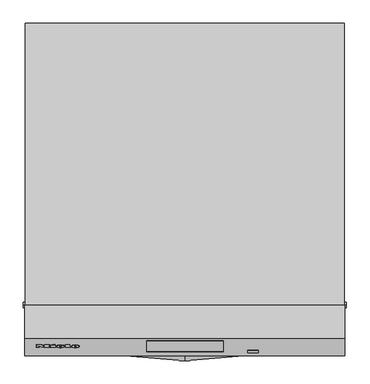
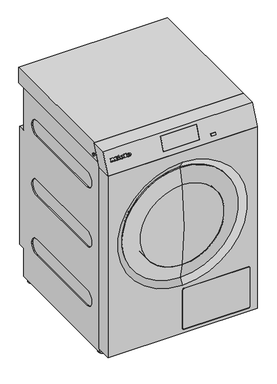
"""IFC4 building model written with IfcOpenShell, lengths in millimetres: proxy geometry, 11966870_SOM_PDR910EL_SST : 52910012_SOM_11966870_PDR910EL_SST."""

from ifc_helpers import new_model, si_unit, point, frame, frame_2d, origin, origin_with_axes, place, context, project, spatial, polyline, circle_curve, ellipse_curve, trimmed, segment, composite_curve, outline, extrude, faceted_brep, source, transform, mapped, element, save
from ifc_brep_helpers import plane_surface, cylinder_surface, revolved_surface, extruded_surface, advanced_brep


def specialty_equipment_f5509ea8(model_context):
    return source(origin(), model_context, "Body", "SolidModel", [
        advanced_brep(
        [(-238.2722, -700.6126019, 975.6957235), (-238.2722, -700.0401393, 977.1419447), (-227.9696, -700.0401393, 977.1419447), (-245.8952, -700.0401393, 977.1419447), (-241.6602, -701.9559051, 972.3021154), (-228.2314, -700.6126019, 975.6957235), (-232.8822, -700.6126019, 975.6957235), (-236.5474, -701.2474119, 974.0919931), (-238.2722, -699.3146422, 978.9747795), (-238.2722, -698.6968361, 980.5355529), (-235.6388, -698.6968361, 980.5355529), (-235.6388, -699.3146422, 978.9747795), (-238.2722, -699.6827953, 975.3276751), (-236.5474, -700.3176052, 973.7239446), (-232.8822, -699.6827953, 975.3276751), (-228.2314, -699.6827953, 975.3276751), (-241.6602, -701.0260985, 971.9340669), (-245.8952, -699.1103327, 976.7738963), (-227.9696, -699.1103327, 976.7738963), (-238.2722, -699.1103327, 976.7738963), (-238.2722, -698.3848356, 978.6067311), (-235.6388, -698.3848356, 978.6067311), (-235.6388, -697.7670295, 980.1675045), (-238.2722, -697.7670295, 980.1675045)],
        [
            (0, 1),
            (1, 2),
            (2, 3, ellipse_curve(frame((-236.9324, -700.0401393, 977.1419447), z_axis=(0.0, -0.9298066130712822, 0.36804845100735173), x_axis=(-1.0, 0.0, 0.0)), 8.9628, 7.4074)),
            (3, 4, circle_curve(frame((-239.935316, -699.8474292, 977.6287915), z_axis=(0.0, -0.9298066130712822, 0.36804845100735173), x_axis=(0.0, -0.36804845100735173, -0.9298066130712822)), 5.98284)),
            (4, 5, circle_curve(frame((-237.1118224, -698.3510914, 981.4090133), z_axis=(0.0, -0.9298066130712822, 0.36804845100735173), x_axis=(0.0, -0.36804845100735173, -0.9298066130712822)), 10.7989819)),
            (5, 6),
            (6, 7, circle_curve(frame((-235.7946118, -700.0854829, 977.0273926), z_axis=(0.0, 0.9298066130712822, -0.36804845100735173), x_axis=(0.0, -0.36804845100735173, -0.9298066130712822)), 3.2455106)),
            (7, 0, circle_curve(frame((-236.5474, -700.6126019, 975.6957235), z_axis=(0.0, 0.9298066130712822, -0.36804845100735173), x_axis=(0.0, -0.36804845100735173, -0.9298066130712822)), 1.7248)),
            (8, 9),
            (9, 10, circle_curve(frame((-236.9555, -698.6968361, 980.5355529), z_axis=(0.0, 0.9298066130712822, -0.36804845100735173), x_axis=(0.0, -0.36804845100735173, -0.9298066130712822)), 1.3167)),
            (10, 11),
            (11, 8),
            (12, 13, circle_curve(frame((-236.5474, -699.6827953, 975.3276751), z_axis=(0.0, -0.9298066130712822, 0.36804845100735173), x_axis=(0.0, -0.36804845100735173, -0.9298066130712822)), 1.7248)),
            (13, 14, circle_curve(frame((-235.7946118, -699.1556763, 976.6593441), z_axis=(0.0, -0.9298066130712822, 0.36804845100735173), x_axis=(0.0, -0.36804845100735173, -0.9298066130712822)), 3.2455106)),
            (14, 15),
            (15, 16, circle_curve(frame((-237.1118224, -697.4212848, 981.0409648), z_axis=(0.0, 0.9298066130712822, -0.36804845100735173), x_axis=(0.0, -0.36804845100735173, -0.9298066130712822)), 10.7989819)),
            (16, 17, circle_curve(frame((-239.935316, -698.9176225, 977.260743), z_axis=(0.0, 0.9298066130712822, -0.36804845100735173), x_axis=(0.0, -0.36804845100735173, -0.9298066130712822)), 5.98284)),
            (17, 18, ellipse_curve(frame((-236.9324, -699.1103327, 976.7738963), z_axis=(0.0, 0.9298066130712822, -0.36804845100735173), x_axis=(-1.0, 0.0, 0.0)), 8.9628, 7.4074)),
            (18, 19),
            (19, 12),
            (20, 21),
            (21, 22),
            (22, 23, circle_curve(frame((-236.9555, -697.7670295, 980.1675045), z_axis=(0.0, -0.9298066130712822, 0.36804845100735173), x_axis=(0.0, -0.36804845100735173, -0.9298066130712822)), 1.3167)),
            (23, 20),
            (0, 12),
            (19, 1),
            (18, 2),
            (5, 15),
            (14, 6),
            (17, 3),
            (13, 7),
            (16, 4),
            (8, 20),
            (23, 9),
            (22, 10),
            (21, 11),
        ],
        [
            plane_surface(frame((-238.2722, -700.0401393, 977.1419447), z_axis=(0.0, -0.9298066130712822, 0.36804845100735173), x_axis=(0.0, 0.36804845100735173, 0.9298066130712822))),
            plane_surface(frame((-238.2722, -699.1103327, 976.7738963), z_axis=(0.0, 0.9298066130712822, -0.36804845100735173), x_axis=(0.0, -0.36804845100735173, -0.9298066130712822))),
            plane_surface(frame((-238.2722, -700.6126019, 975.6957235), z_axis=(1.0, 0.0, 0.0), x_axis=(0.0, 0.9298066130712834, -0.3680484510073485))),
            plane_surface(frame((-238.2722, -700.0401393, 977.1419447), z_axis=(0.0, -0.3680484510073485, -0.9298066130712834), x_axis=(0.0, 0.9298066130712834, -0.3680484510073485))),
            plane_surface(frame((-228.2314, -700.6126019, 975.6957235), z_axis=(0.0, 0.3680484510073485, 0.9298066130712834), x_axis=(0.0, 0.9298066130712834, -0.3680484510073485))),
            extruded_surface(trimmed(ellipse_curve(frame((-236.9324, -698.1805261, 976.4058478), z_axis=(0.0, -0.9298066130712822, 0.36804845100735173), x_axis=(-1.0, 0.0, 0.0)), 8.9628, 7.4074), [point((-227.9696, -698.1805261, 976.4058478))], [point((-245.8952, -698.1805261, 976.4058478))], True, "CARTESIAN"), (0.0, -0.9298066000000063, 0.3680485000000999), 1.0000000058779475),
            revolved_surface(polyline([(-235.7946118, -700.3501813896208, 973.6416468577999), (-235.7946118, -701.2799880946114, 974.009695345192)]), (-235.7946118, -699.1556763, 976.6593441), (0.0, 0.9298066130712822, -0.36804845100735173)),
            revolved_surface(polyline([(-236.5474, -700.3176051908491, 973.723944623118), (-236.5474, -701.2474118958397, 974.0919931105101)]), (-236.5474, -699.6827953, 975.3276751), (0.0, 0.9298066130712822, -0.36804845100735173)),
            cylinder_surface(frame((-239.935316, -698.9176225, 977.260743), z_axis=(0.0, -0.9298066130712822, 0.36804845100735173), x_axis=(0.0, -0.36804845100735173, -0.9298066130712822)), 5.98284),
            cylinder_surface(frame((-237.1118224, -697.4212848, 981.0409648), z_axis=(0.0, -0.9298066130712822, 0.36804845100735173), x_axis=(0.0, -0.36804845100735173, -0.9298066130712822)), 10.7989819),
            plane_surface(frame((-238.2722, -699.3146422, 978.9747795), z_axis=(1.0, 0.0, 0.0), x_axis=(0.0, 0.9298066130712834, -0.3680484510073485))),
            revolved_surface(polyline([(-236.9555, -698.2516388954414, 978.943228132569), (-236.9555, -699.1814454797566, 979.3112765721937)]), (-236.9555, -697.7670295, 980.1675045), (0.0, 0.9298066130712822, -0.36804845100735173)),
            plane_surface(frame((-235.6388, -698.6968361, 980.5355529), z_axis=(-1.0, 0.0, 0.0), x_axis=(0.0, 0.9298066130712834, -0.3680484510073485))),
            plane_surface(frame((-235.6388, -699.3146422, 978.9747795), z_axis=(0.0, 0.3680484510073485, 0.9298066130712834), x_axis=(0.0, 0.9298066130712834, -0.3680484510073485))),
        ],
        [
            (0, [[1, 2, 3, 4, 5, 6, 7, 8], [9, 10, 11, 12]]),
            (1, [[13, 14, 15, 16, 17, 18, 19, 20], [21, 22, 23, 24]]),
            (2, [[-1, 25, -20, 26]]),
            (3, [[-2, -26, -19, 27]]),
            (4, [[-6, 28, -15, 29]]),
            (5, [[-3, -27, -18, 30]]),
            (6, [[-7, -29, -14, 31]]),
            (7, [[-8, -31, -13, -25]]),
            (8, [[-4, -30, -17, 32]]),
            (9, [[-5, -32, -16, -28]]),
            (10, [[-9, 33, -24, 34]]),
            (11, [[-10, -34, -23, 35]]),
            (12, [[-11, -35, -22, 36]]),
            (13, [[-12, -36, -21, -33]]),
        ],
    ),
        advanced_brep(
        [(-270.412, -700.6126019, 975.6957235), (-270.412, -700.0401393, 977.1419447), (-260.1094, -700.0401393, 977.1419447), (-278.035, -700.0401393, 977.1419447), (-273.8, -701.9559051, 972.3021154), (-260.3712, -700.6126019, 975.6957235), (-265.022, -700.6126019, 975.6957235), (-268.6872, -701.2474119, 974.0919931), (-270.412, -699.3146422, 978.9747795), (-270.412, -698.6968361, 980.5355529), (-267.7786, -698.6968361, 980.5355529), (-267.7786, -699.3146422, 978.9747795), (-270.412, -699.6827953, 975.3276751), (-268.6872, -700.3176052, 973.7239446), (-265.022, -699.6827953, 975.3276751), (-260.3712, -699.6827953, 975.3276751), (-273.8, -701.0260985, 971.9340669), (-278.035, -699.1103327, 976.7738963), (-260.1094, -699.1103327, 976.7738963), (-270.412, -699.1103327, 976.7738963), (-270.412, -698.3848356, 978.6067311), (-267.7786, -698.3848356, 978.6067311), (-267.7786, -697.7670295, 980.1675045), (-270.412, -697.7670295, 980.1675045)],
        [
            (0, 1),
            (1, 2),
            (2, 3, ellipse_curve(frame((-269.0722, -700.0401393, 977.1419447), z_axis=(0.0, -0.9298066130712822, 0.36804845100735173), x_axis=(-1.0, 0.0, 0.0)), 8.9628, 7.4074)),
            (3, 4, circle_curve(frame((-272.075116, -699.8474292, 977.6287915), z_axis=(0.0, -0.9298066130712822, 0.36804845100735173), x_axis=(0.0, -0.36804845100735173, -0.9298066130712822)), 5.98284)),
            (4, 5, circle_curve(frame((-269.2516224, -698.3510914, 981.4090133), z_axis=(0.0, -0.9298066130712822, 0.36804845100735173), x_axis=(0.0, -0.36804845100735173, -0.9298066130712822)), 10.7989819)),
            (5, 6),
            (6, 7, circle_curve(frame((-267.9344118, -700.0854829, 977.0273926), z_axis=(0.0, 0.9298066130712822, -0.36804845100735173), x_axis=(0.0, -0.36804845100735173, -0.9298066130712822)), 3.2455106)),
            (7, 0, circle_curve(frame((-268.6872, -700.6126019, 975.6957235), z_axis=(0.0, 0.9298066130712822, -0.36804845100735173), x_axis=(0.0, -0.36804845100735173, -0.9298066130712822)), 1.7248)),
            (8, 9),
            (9, 10, circle_curve(frame((-269.0953, -698.6968361, 980.5355529), z_axis=(0.0, 0.9298066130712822, -0.36804845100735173), x_axis=(0.0, -0.36804845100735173, -0.9298066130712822)), 1.3167)),
            (10, 11),
            (11, 8),
            (12, 13, circle_curve(frame((-268.6872, -699.6827953, 975.3276751), z_axis=(0.0, -0.9298066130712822, 0.36804845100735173), x_axis=(0.0, -0.36804845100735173, -0.9298066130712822)), 1.7248)),
            (13, 14, circle_curve(frame((-267.9344118, -699.1556763, 976.6593441), z_axis=(0.0, -0.9298066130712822, 0.36804845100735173), x_axis=(0.0, -0.36804845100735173, -0.9298066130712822)), 3.2455106)),
            (14, 15),
            (15, 16, circle_curve(frame((-269.2516224, -697.4212848, 981.0409648), z_axis=(0.0, 0.9298066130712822, -0.36804845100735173), x_axis=(0.0, -0.36804845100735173, -0.9298066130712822)), 10.7989819)),
            (16, 17, circle_curve(frame((-272.075116, -698.9176225, 977.260743), z_axis=(0.0, 0.9298066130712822, -0.36804845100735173), x_axis=(0.0, -0.36804845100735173, -0.9298066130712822)), 5.98284)),
            (17, 18, ellipse_curve(frame((-269.0722, -699.1103327, 976.7738963), z_axis=(0.0, 0.9298066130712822, -0.36804845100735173), x_axis=(-1.0, 0.0, 0.0)), 8.9628, 7.4074)),
            (18, 19),
            (19, 12),
            (20, 21),
            (21, 22),
            (22, 23, circle_curve(frame((-269.0953, -697.7670295, 980.1675045), z_axis=(0.0, -0.9298066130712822, 0.36804845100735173), x_axis=(0.0, -0.36804845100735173, -0.9298066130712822)), 1.3167)),
            (23, 20),
            (0, 12),
            (19, 1),
            (18, 2),
            (5, 15),
            (14, 6),
            (17, 3),
            (13, 7),
            (16, 4),
            (8, 20),
            (23, 9),
            (22, 10),
            (21, 11),
        ],
        [
            plane_surface(frame((-270.412, -700.0401393, 977.1419447), z_axis=(0.0, -0.9298066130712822, 0.36804845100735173), x_axis=(0.0, 0.36804845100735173, 0.9298066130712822))),
            plane_surface(frame((-270.412, -699.1103327, 976.7738963), z_axis=(0.0, 0.9298066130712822, -0.36804845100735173), x_axis=(0.0, -0.36804845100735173, -0.9298066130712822))),
            plane_surface(frame((-270.412, -700.6126019, 975.6957235), z_axis=(1.0, 0.0, 0.0), x_axis=(0.0, 0.9298066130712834, -0.3680484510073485))),
            plane_surface(frame((-270.412, -700.0401393, 977.1419447), z_axis=(0.0, -0.3680484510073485, -0.9298066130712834), x_axis=(0.0, 0.9298066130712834, -0.3680484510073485))),
            plane_surface(frame((-260.3712, -700.6126019, 975.6957235), z_axis=(0.0, 0.3680484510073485, 0.9298066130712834), x_axis=(0.0, 0.9298066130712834, -0.3680484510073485))),
            extruded_surface(trimmed(ellipse_curve(frame((-269.0722, -698.1805261, 976.4058478), z_axis=(0.0, -0.9298066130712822, 0.36804845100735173), x_axis=(-1.0, 0.0, 0.0)), 8.9628, 7.4074), [point((-260.1094, -698.1805261, 976.4058478))], [point((-278.035, -698.1805261, 976.4058478))], True, "CARTESIAN"), (0.0, -0.9298066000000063, 0.3680485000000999), 1.0000000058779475),
            revolved_surface(polyline([(-267.9344118, -700.3501813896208, 973.6416468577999), (-267.9344118, -701.2799880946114, 974.009695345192)]), (-267.9344118, -699.1556763, 976.6593441), (0.0, 0.9298066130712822, -0.36804845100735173)),
            revolved_surface(polyline([(-268.6872, -700.3176051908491, 973.723944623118), (-268.6872, -701.2474118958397, 974.0919931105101)]), (-268.6872, -699.6827953, 975.3276751), (0.0, 0.9298066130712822, -0.36804845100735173)),
            cylinder_surface(frame((-272.075116, -698.9176225, 977.260743), z_axis=(0.0, -0.9298066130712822, 0.36804845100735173), x_axis=(0.0, -0.36804845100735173, -0.9298066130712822)), 5.98284),
            cylinder_surface(frame((-269.2516224, -697.4212848, 981.0409648), z_axis=(0.0, -0.9298066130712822, 0.36804845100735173), x_axis=(0.0, -0.36804845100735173, -0.9298066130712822)), 10.7989819),
            plane_surface(frame((-270.412, -699.3146422, 978.9747795), z_axis=(1.0, 0.0, 0.0), x_axis=(0.0, 0.9298066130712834, -0.3680484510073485))),
            revolved_surface(polyline([(-269.0953, -698.2516388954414, 978.943228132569), (-269.0953, -699.1814454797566, 979.3112765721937)]), (-269.0953, -697.7670295, 980.1675045), (0.0, 0.9298066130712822, -0.36804845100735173)),
            plane_surface(frame((-267.7786, -698.6968361, 980.5355529), z_axis=(-1.0, 0.0, 0.0), x_axis=(0.0, 0.9298066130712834, -0.3680484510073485))),
            plane_surface(frame((-267.7786, -699.3146422, 978.9747795), z_axis=(0.0, 0.3680484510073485, 0.9298066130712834), x_axis=(0.0, 0.9298066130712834, -0.3680484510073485))),
        ],
        [
            (0, [[1, 2, 3, 4, 5, 6, 7, 8], [9, 10, 11, 12]]),
            (1, [[13, 14, 15, 16, 17, 18, 19, 20], [21, 22, 23, 24]]),
            (2, [[-1, 25, -20, 26]]),
            (3, [[-2, -26, -19, 27]]),
            (4, [[-6, 28, -15, 29]]),
            (5, [[-3, -27, -18, 30]]),
            (6, [[-7, -29, -14, 31]]),
            (7, [[-8, -31, -13, -25]]),
            (8, [[-4, -30, -17, 32]]),
            (9, [[-5, -32, -16, -28]]),
            (10, [[-9, 33, -24, 34]]),
            (11, [[-10, -34, -23, 35]]),
            (12, [[-11, -35, -22, 36]]),
            (13, [[-12, -36, -21, -33]]),
        ],
    ),
        extrude(outline(polyline([(0.0, 0.0), (-0.0209991, -5.7737091), (-2.7701549, -5.7597671), (-2.7556966, 0.0), (0.0, 0.0)])), frame((-287.2442, -695.6925612, 985.4082665), z_axis=(0.0, -0.9298066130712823, 0.3680484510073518), x_axis=(-0.4247202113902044, 0.33320333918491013, 0.8417768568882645)), (0.0, 0.0, 1.0), 1.0),
        extrude(outline(polyline([(-0.9497773, 4.6471612), (-5.3516625, -4.7358047), (-13.5635003, -0.8833376), (-14.3222205, -2.5006095), (-16.6644765, -1.4017734), (-11.5038711, 9.5984644), (-9.1616151, 8.4996283), (-9.9399574, 6.8405303), (-4.2237375, 4.1588469), (-3.4453952, 5.8179449), (-0.9497773, 4.6471612)])), frame((-287.2442, -695.6925612, 985.4082665), z_axis=(0.0, -0.9298066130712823, 0.3680484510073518), x_axis=(-0.4247202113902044, 0.33320333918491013, 0.8417768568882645)), (0.0, 0.0, 1.0), 1.0),
        extrude(outline(polyline([(0.0, 0.0), (0.0, -2.5102), (-10.5952, -2.5102), (-10.5952, 10.3026), (-12.4894, 10.3026), (-12.4894, 12.8898), (0.0, 12.8898), (0.0, 10.3026), (-1.848, 10.3026), (-1.848, 0.0), (0.0, 0.0)])), frame((-259.247, -696.2820276, 983.9190882), z_axis=(0.0, -0.9298066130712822, 0.36804845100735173), x_axis=(-1.0, 0.0, 0.0)), (0.0, 0.0, 1.0), 1.0),
        extrude(outline(polyline([(0.0, 0.0), (0.0, -2.5102), (-10.7338, -2.5102), (-15.246, 3.2648), (-19.7428, -2.5102), (-29.1214, -2.5102), (-29.1214, 0.0), (-27.1656, 0.0), (-27.1656, 10.3026), (-29.1214, 10.3026), (-29.1214, 12.8898), (-16.8322, 12.8898), (-16.8322, 10.3026), (-18.7264, 10.3026), (-18.7264, 3.7307777), (-11.8118, 12.8898), (-4.928, 3.7988752), (-4.928, 10.3026), (-6.776, 10.3026), (-6.776, 12.8898), (0.0, 12.8898), (0.0, 10.3026), (-1.8634, 10.3026), (-1.8634, 0.0), (0.0, 0.0)])), frame((-321.7402, -696.2820276, 983.9190882), z_axis=(0.0, -0.9298066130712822, 0.36804845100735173), x_axis=(-1.0, 0.0, 0.0)), (0.0, 0.0, 1.0), 1.0),
        extrude(outline(polyline([(-639.7145833, 946.7), (-711.0145833, 946.7), (-687.0666667, 1007.2), (-615.7666667, 1007.2), (-639.7145833, 946.7)])), frame((-82.85, 0.0, 0.0), z_axis=(1.0, 0.0, 0.0), x_axis=(0.0, 1.0, 0.0)), (0.0, 0.0, 1.0), 165.7),
        faceted_brep([(346.0, -610.7, 1020.0), (346.0, -682.0, 1020.0), (346.0, -720.0, 924.0), (346.0, -648.7, 924.0), (-346.0, -610.7, 1020.0), (-346.0, -648.7, 924.0), (-346.0, -720.0, 924.0), (-346.0, -682.0, 1020.0), (-82.85, -687.0666667, 1007.2), (82.85, -687.0666667, 1007.2), (82.85, -711.0145833, 946.7), (-82.85, -711.0145833, 946.7), (82.85, -615.7666667, 1007.2), (-82.85, -615.7666667, 1007.2), (-82.85, -639.7145833, 946.7), (82.85, -639.7145833, 946.7)], [[[0, 1, 2, 3]], [[4, 5, 6, 7]], [[1, 0, 4, 7]], [[2, 1, 7, 6], [8, 9, 10, 11]], [[3, 2, 6, 5]], [[0, 3, 5, 4], [12, 13, 14, 15]], [[12, 9, 8, 13]], [[13, 8, 11, 14]], [[14, 11, 10, 15]], [[9, 12, 15, 10]]]),
        extrude(outline(polyline([(-707.5708333, 955.4), (-711.1333333, 946.4), (-713.1333333, 946.4), (-709.5708333, 955.4), (-707.5708333, 955.4)])), frame((136.75, 0.0, 0.0), z_axis=(1.0, 0.0, 0.0), x_axis=(0.0, 1.0, 0.0)), (0.0, 0.0, 1.0), 22.5),
        extrude(outline(polyline([(0.0, 943.8), (-640.9, 943.8), (-610.7, 1020.0), (0.0, 1020.0), (0.0, 943.8)])), frame((-345.0, 0.0, 0.0), z_axis=(1.0, 0.0, 0.0), x_axis=(0.0, 1.0, 0.0)), (0.0, 0.0, 1.0), 690.0),
        extrude(outline(composite_curve([segment(trimmed(circle_curve(frame_2d((-610.0, 963.8)), 6.0), [point((-610.0, 957.8))], [point((-610.0, 969.8))], False, "CARTESIAN"), True, "CONTINUOUS"), segment(trimmed(circle_curve(frame_2d((-610.0, 963.8)), 6.0), [point((-610.0, 969.8))], [point((-610.0, 957.8))], False, "CARTESIAN"), True, "CONTINUOUS")], self_intersect=False)), frame((-350.0, 0.0, 0.0), z_axis=(1.0, 0.0, 0.0), x_axis=(0.0, 1.0, 0.0)), (0.0, 0.0, 1.0), 5.0),
        extrude(outline(composite_curve([segment(trimmed(circle_curve(frame_2d((-610.0, 963.8)), 6.0), [point((-610.0, 957.8))], [point((-610.0, 969.8))], False, "CARTESIAN"), True, "CONTINUOUS"), segment(trimmed(circle_curve(frame_2d((-610.0, 963.8)), 6.0), [point((-610.0, 969.8))], [point((-610.0, 957.8))], False, "CARTESIAN"), True, "CONTINUOUS")], self_intersect=False)), frame((345.0, 0.0, 0.0), z_axis=(1.0, 0.0, 0.0), x_axis=(0.0, 1.0, 0.0)), (0.0, 0.0, 1.0), 5.0),
        advanced_brep(
        [(-0.6181593, -731.0, 562.28215), (-0.6181593, -714.5357304, 758.08215), (-0.6181593, -714.5357304, 366.48215), (-0.6181593, -655.0, 366.48215), (-0.6181593, -655.0, 758.08215), (-0.6181593, -655.0, 562.28215)],
        [
            (0, 1, circle_curve(frame((-0.6181593, 441.5, 562.28215), z_axis=(-1.0, 0.0, 0.0), x_axis=(0.0, 1.0, 0.0)), 1172.5)),
            (1, 2, circle_curve(frame((-0.6181593, -714.5357304, 562.28215), z_axis=(0.0, -1.0, 0.0), x_axis=(0.0, 0.0, 1.0)), 195.8)),
            (2, 0, circle_curve(frame((-0.6181593, 441.5, 562.28215), z_axis=(-1.0, 0.0, 0.0), x_axis=(0.0, 1.0, 0.0)), 1172.5)),
            (2, 1, circle_curve(frame((-0.6181593, -714.5357304, 562.28215), z_axis=(0.0, -1.0, 0.0), x_axis=(0.0, 0.0, 1.0)), 195.8)),
            (3, 4, circle_curve(frame((-0.6181593, -655.0, 562.28215), z_axis=(0.0, 1.0, 0.0), x_axis=(0.0, 0.0, 1.0)), 195.8)),
            (4, 5),
            (5, 3),
            (4, 3, circle_curve(frame((-0.6181593, -655.0, 562.28215), z_axis=(0.0, 1.0, 0.0), x_axis=(0.0, 0.0, 1.0)), 195.8)),
            (1, 4),
            (3, 2),
        ],
        [
            revolved_surface(trimmed(ellipse_curve(frame((-0.6181593, 441.5, 562.28215), z_axis=(1.0, 0.0, 0.0), x_axis=(0.0, 1.0, 0.0)), 1172.5, 1172.5), [point((-0.6181593, -714.5357304, 758.08215))], [point((-0.6181593, -731.0, 562.28215))], True, "CARTESIAN"), (-0.6181593, -1133.7365177, 562.28215), (0.0, -1.0, 0.0)),
            plane_surface(frame((-0.6181593, -655.0, 562.28215), z_axis=(0.0, 1.0, 0.0), x_axis=(0.0, 0.0, 1.0))),
            cylinder_surface(frame((-0.6181593, -1133.7365177, 562.28215), z_axis=(0.0, -1.0, 0.0), x_axis=(0.0, 0.0, 1.0)), 195.8),
        ],
        [
            (0, [[1, 2, 3]]),
            (0, [[-3, 4, -1]]),
            (1, [[5, 6, 7]]),
            (1, [[8, -7, -6]]),
            (2, [[-2, 9, -5, 10]]),
            (2, [[-4, -10, -8, -9]]),
        ],
    ),
        advanced_brep(
        [(-0.6181593, -655.0, 327.28215), (-0.6181593, -655.0, 797.28215), (-0.6181593, -655.0, 758.08215), (-0.6181593, -655.0, 366.48215), (-0.6181593, -661.5, 315.18215), (-0.6181593, -661.5, 809.38215), (-0.6181593, -690.7, 292.28215), (-0.6181593, -690.7, 832.28215), (-0.6181593, -700.5, 292.28215), (-0.6181593, -700.5, 832.28215), (-0.6181593, -717.25, 366.48215), (-0.6181593, -717.25, 758.08215)],
        [
            (0, 1, circle_curve(frame((-0.6181593, -655.0, 562.28215), z_axis=(0.0, 1.0, 0.0), x_axis=(0.0, 0.0, 1.0)), 235.0)),
            (1, 2),
            (2, 3, circle_curve(frame((-0.6181593, -655.0, 562.28215), z_axis=(0.0, -1.0, 0.0), x_axis=(0.0, 0.0, 1.0)), 195.8)),
            (3, 0),
            (1, 0, circle_curve(frame((-0.6181593, -655.0, 562.28215), z_axis=(0.0, 1.0, 0.0), x_axis=(0.0, 0.0, 1.0)), 235.0)),
            (3, 2, circle_curve(frame((-0.6181593, -655.0, 562.28215), z_axis=(0.0, -1.0, 0.0), x_axis=(0.0, 0.0, 1.0)), 195.8)),
            (4, 5, circle_curve(frame((-0.6181593, -661.5, 562.28215), z_axis=(0.0, 1.0, 0.0), x_axis=(0.0, 0.0, 1.0)), 247.1)),
            (5, 1),
            (0, 4),
            (5, 4, circle_curve(frame((-0.6181593, -661.5, 562.28215), z_axis=(0.0, 1.0, 0.0), x_axis=(0.0, 0.0, 1.0)), 247.1)),
            (6, 7, circle_curve(frame((-0.6181593, -690.7, 562.28215), z_axis=(0.0, 1.0, 0.0), x_axis=(0.0, 0.0, 1.0)), 270.0)),
            (7, 5),
            (4, 6),
            (7, 6, circle_curve(frame((-0.6181593, -690.7, 562.28215), z_axis=(0.0, 1.0, 0.0), x_axis=(0.0, 0.0, 1.0)), 270.0)),
            (8, 9, circle_curve(frame((-0.6181593, -700.5, 562.28215), z_axis=(0.0, 1.0, 0.0), x_axis=(0.0, 0.0, 1.0)), 270.0)),
            (9, 7),
            (6, 8),
            (9, 8, circle_curve(frame((-0.6181593, -700.5, 562.28215), z_axis=(0.0, 1.0, 0.0), x_axis=(0.0, 0.0, 1.0)), 270.0)),
            (10, 11, circle_curve(frame((-0.6181593, -717.25, 562.28215), z_axis=(0.0, 1.0, 0.0), x_axis=(0.0, 0.0, 1.0)), 195.8)),
            (11, 9),
            (8, 10),
            (11, 10, circle_curve(frame((-0.6181593, -717.25, 562.28215), z_axis=(0.0, 1.0, 0.0), x_axis=(0.0, 0.0, 1.0)), 195.8)),
            (2, 11),
            (10, 3),
        ],
        [
            plane_surface(frame((-0.6181593, -655.0, 562.28215), z_axis=(0.0, 1.0, 0.0), x_axis=(0.0, 0.0, 1.0))),
            revolved_surface(polyline([(-0.6181593, -655.0, 797.28215), (-0.6181593, -661.5, 809.38215)]), (-0.6181593, -1133.7365177, 562.28215), (0.0, -1.0, 0.0)),
            revolved_surface(polyline([(-0.6181593, -661.5, 809.38215), (-0.6181593, -690.7, 832.28215)]), (-0.6181593, -1133.7365177, 562.28215), (0.0, -1.0, 0.0)),
            cylinder_surface(frame((-0.6181593, -1133.7365177, 562.28215), z_axis=(0.0, -1.0, 0.0), x_axis=(0.0, 0.0, 1.0)), 270.0),
            revolved_surface(polyline([(-0.6181593, -700.5, 832.28215), (-0.6181593, -717.25, 758.08215)]), (-0.6181593, -1133.7365177, 562.28215), (0.0, -1.0, 0.0)),
            revolved_surface(polyline([(-0.6181593, -717.25, 758.08215), (-0.6181593, -655.0, 758.08215)]), (-0.6181593, -1133.7365177, 562.28215), (0.0, -1.0, 0.0)),
        ],
        [
            (0, [[1, 2, 3, 4]]),
            (0, [[5, -4, 6, -2]]),
            (1, [[7, 8, -1, 9]]),
            (1, [[10, -9, -5, -8]]),
            (2, [[11, 12, -7, 13]]),
            (2, [[14, -13, -10, -12]]),
            (3, [[15, 16, -11, 17]]),
            (3, [[18, -17, -14, -16]]),
            (4, [[19, 20, -15, 21]]),
            (4, [[22, -21, -18, -20]]),
            (5, [[-3, 23, -19, 24]]),
            (5, [[-6, -24, -22, -23]]),
        ],
    ),
        extrude(outline(polyline([(240.6772603, -32.7), (233.3, -32.7), (233.3, -31.4442961), (239.4215564, -31.4442961), (239.4215564, -28.1480734), (233.770889, -28.1480734), (233.770889, -26.8923696), (239.4215564, -26.8923696), (239.4215564, -23.9100729), (233.456963, -23.9100729), (233.456963, -22.654369), (240.6772603, -22.654369), (240.6772603, -32.7)])), frame((0.0, 0.0, 779.0), z_axis=(0.0, 0.0, 1.0), x_axis=(1.0, 0.0, 0.0)), (0.0, 0.0, 1.0), 1.0),
        extrude(outline(polyline([(231.4164442, -32.7), (225.1379248, -32.7), (225.1379248, -31.4442961), (230.1607403, -31.4442961), (230.1607403, -22.654369), (231.4164442, -22.654369), (231.4164442, -32.7)])), frame((0.0, 0.0, 779.0), z_axis=(0.0, 0.0, 1.0), x_axis=(1.0, 0.0, 0.0)), (0.0, 0.0, 1.0), 1.0),
        extrude(outline(composite_curve([segment(trimmed(circle_curve(frame_2d((233.3, -27.7)), 7.5), [point((225.8, -27.7))], [point((240.8, -27.7))], False, "CARTESIAN"), True, "CONTINUOUS"), segment(trimmed(circle_curve(frame_2d((233.3, -27.7)), 7.5), [point((240.8, -27.7))], [point((225.8, -27.7))], False, "CARTESIAN"), True, "CONTINUOUS")], self_intersect=False)), frame((0.0, 0.0, 780.0), z_axis=(0.0, 0.0, 1.0), x_axis=(1.0, 0.0, 0.0)), (0.0, 0.0, 1.0), 30.0),
        extrude(outline(polyline([(-36.0, 810.0), (-36.0, 890.8), (-11.2, 863.0), (-11.2, 810.0), (-36.0, 810.0)])), frame((197.0, 0.0, 0.0), z_axis=(1.0, 0.0, 0.0), x_axis=(0.0, 1.0, 0.0)), (0.0, 0.0, 1.0), 76.0),
        extrude(outline(polyline([(85.0, -189.952875), (95.045631, -193.9627887), (95.045631, -195.0320991), (85.0, -199.0420128), (85.0, -197.7151851), (88.1392597, -196.5649407), (88.1392597, -192.4274945), (85.0, -191.2797027), (85.0, -189.952875)]), holes=[polyline([(89.3949636, -192.8885733), (89.3949636, -196.1063145), (91.864678, -195.2013248), (93.7899271, -194.4974439), (92.0805021, -193.8720445), (89.3949636, -192.8885733)])]), frame((0.0, -6.0, 0.0), z_axis=(0.0, 1.0, 0.0), x_axis=(0.0, 0.0, 1.0)), (0.0, 0.0, 1.0), 1.0),
        extrude(outline(polyline([(85.0, -200.3835558), (95.045631, -200.3835558), (95.045631, -201.6392597), (86.2557039, -201.6392597), (86.2557039, -206.6620752), (85.0, -206.6620752), (85.0, -200.3835558)])), frame((0.0, -6.0, 0.0), z_axis=(0.0, 1.0, 0.0), x_axis=(0.0, 0.0, 1.0)), (0.0, 0.0, 1.0), 1.0),
        extrude(outline(composite_curve([segment(trimmed(circle_curve(frame_2d((90.0, -198.5)), 57.5), [point((32.5, -198.5))], [point((147.5, -198.5))], False, "CARTESIAN"), True, "CONTINUOUS"), segment(trimmed(circle_curve(frame_2d((90.0, -198.5)), 57.5), [point((147.5, -198.5))], [point((32.5, -198.5))], False, "CARTESIAN"), True, "CONTINUOUS")], self_intersect=False)), frame((0.0, -36.0, 0.0), z_axis=(0.0, 1.0, 0.0), x_axis=(0.0, 0.0, 1.0)), (0.0, 0.0, 1.0), 30.0),
        extrude(outline(composite_curve([segment(trimmed(circle_curve(frame_2d((-314.5, -60.1)), 20.0), [point((-334.5, -60.1))], [point((-294.5, -60.1))], False, "CARTESIAN"), True, "CONTINUOUS"), segment(trimmed(circle_curve(frame_2d((-314.5, -60.1)), 20.0), [point((-294.5, -60.1))], [point((-334.5, -60.1))], False, "CARTESIAN"), True, "CONTINUOUS")], self_intersect=False)), origin_with_axes(), (0.0, 0.0, 1.0), 18.2),
        extrude(outline(composite_curve([segment(trimmed(circle_curve(frame_2d((314.5, -60.1)), 20.0), [point((294.5, -60.1))], [point((334.5, -60.1))], False, "CARTESIAN"), True, "CONTINUOUS"), segment(trimmed(circle_curve(frame_2d((314.5, -60.1)), 20.0), [point((334.5, -60.1))], [point((294.5, -60.1))], False, "CARTESIAN"), True, "CONTINUOUS")], self_intersect=False)), origin_with_axes(), (0.0, 0.0, 1.0), 18.2),
        extrude(outline(composite_curve([segment(trimmed(circle_curve(frame_2d((314.5, -621.3)), 20.0), [point((294.5, -621.3))], [point((334.5, -621.3))], False, "CARTESIAN"), True, "CONTINUOUS"), segment(trimmed(circle_curve(frame_2d((314.5, -621.3)), 20.0), [point((334.5, -621.3))], [point((294.5, -621.3))], False, "CARTESIAN"), True, "CONTINUOUS")], self_intersect=False)), origin_with_axes(), (0.0, 0.0, 1.0), 18.2),
        extrude(outline(composite_curve([segment(trimmed(circle_curve(frame_2d((-314.5, -621.3)), 20.0), [point((-334.5, -621.3))], [point((-294.5, -621.3))], False, "CARTESIAN"), True, "CONTINUOUS"), segment(trimmed(circle_curve(frame_2d((-314.5, -621.3)), 20.0), [point((-294.5, -621.3))], [point((-334.5, -621.3))], False, "CARTESIAN"), True, "CONTINUOUS")], self_intersect=False)), origin_with_axes(), (0.0, 0.0, 1.0), 18.2),
        advanced_brep(
        [(-342.5, -648.7, 18.2), (342.5, -648.7, 18.2), (342.5, -648.7, 924.0), (-342.5, -648.7, 924.0), (0.0, -648.7, 299.8), (0.0, -648.7, 839.8), (342.5, -5.0, 733.5), (342.5, -5.0, 433.0), (149.5, -5.0, 433.0), (-80.0, -5.0, 155.0), (-342.5, -5.0, 155.0), (-342.5, -5.0, 733.5), (-151.0, -5.0, 733.5), (-151.0, -5.0, 943.8), (149.5, -5.0, 943.8), (149.5, -5.0, 733.5), (-342.5, -640.9, 943.8), (342.5, -640.9, 943.8), (342.5, -36.0, 943.8), (149.5, -36.0, 943.8), (-151.0, -36.0, 943.8), (-342.5, -36.0, 943.8), (-342.5, -36.0, 733.5), (-342.5, -36.0, 155.0), (-342.5, -36.0, 18.2), (-342.5, -141.0, 841.5708469), (-342.5, -546.0, 841.5708469), (-342.5, -546.0, 765.5708469), (-342.5, -141.0, 765.5708469), (-342.5, -141.0, 261.8), (-342.5, -546.0, 261.8), (-342.5, -546.0, 185.8), (-342.5, -141.0, 185.8), (-342.5, -141.0, 551.8), (-342.5, -546.0, 551.8), (-342.5, -546.0, 475.8), (-342.5, -141.0, 475.8), (342.5, -36.0, 18.2), (342.5, -36.0, 433.0), (342.5, -36.0, 733.5), (342.5, -548.1, 841.5708469), (342.5, -141.0, 841.5708469), (342.5, -141.0, 765.5708469), (342.5, -548.1, 765.5708469), (342.5, -548.1, 551.8), (342.5, -141.0, 551.8), (342.5, -141.0, 475.8), (342.5, -548.1, 475.8), (342.5, -548.1, 261.8), (342.5, -141.0, 261.8), (342.5, -141.0, 185.8), (342.5, -548.1, 185.8), (0.0, -74.7, 245.4), (0.0, -74.7, 569.8), (0.0, -74.7, 894.2), (0.0, -583.4, 894.2), (0.0, -583.4, 245.4), (0.0, -583.4, 839.8), (0.0, -583.4, 299.8), (-151.0, -36.0, 733.5), (149.5, -36.0, 733.5), (-80.0, -36.0, 155.0), (149.5, -36.0, 433.0), (-337.3, -546.0, 765.5708469), (-337.3, -141.0, 765.5708469), (-337.3, -546.0, 551.8), (-337.3, -141.0, 551.8), (-337.3, -141.0, 475.8), (-337.3, -546.0, 475.8), (-337.3, -546.0, 261.8), (-337.3, -141.0, 261.8), (-337.3, -141.0, 185.8), (-337.3, -546.0, 185.8), (-337.3, -546.0, 841.5708469), (-337.3, -141.0, 841.5708469), (337.3, -548.1, 841.5708469), (337.3, -548.1, 765.5708469), (337.3, -141.0, 765.5708469), (337.3, -141.0, 841.5708469), (337.3, -548.1, 551.8), (337.3, -548.1, 475.8), (337.3, -141.0, 475.8), (337.3, -141.0, 551.8), (337.3, -548.1, 261.8), (337.3, -548.1, 185.8), (337.3, -141.0, 185.8), (337.3, -141.0, 261.8)],
        [
            (0, 1),
            (1, 2),
            (2, 3),
            (3, 0),
            (4, 5, circle_curve(frame((0.0, -648.7, 569.8), z_axis=(0.0, 1.0, 0.0), x_axis=(0.0, 0.0, 1.0)), 270.0)),
            (5, 4, circle_curve(frame((0.0, -648.7, 569.8), z_axis=(0.0, 1.0, 0.0), x_axis=(0.0, 0.0, 1.0)), 270.0)),
            (6, 7),
            (7, 8),
            (8, 9),
            (9, 10),
            (10, 11),
            (11, 12),
            (12, 13),
            (13, 14),
            (14, 15),
            (15, 6),
            (16, 17),
            (17, 18),
            (18, 19),
            (19, 14),
            (13, 20),
            (20, 21),
            (21, 16),
            (3, 16),
            (21, 22),
            (22, 11),
            (10, 23),
            (23, 24),
            (24, 0),
            (25, 26),
            (26, 27, circle_curve(frame((-342.5, -546.0, 803.5708469), z_axis=(1.0, 0.0, 0.0), x_axis=(0.0, 0.0, -1.0)), 38.0)),
            (27, 28),
            (28, 25, circle_curve(frame((-342.5, -141.0, 803.5708469), z_axis=(1.0, 0.0, 0.0), x_axis=(0.0, 0.0, -1.0)), 38.0)),
            (29, 30),
            (30, 31, circle_curve(frame((-342.5, -546.0, 223.8), z_axis=(1.0, 0.0, 0.0), x_axis=(0.0, 0.0, -1.0)), 38.0)),
            (31, 32),
            (32, 29, circle_curve(frame((-342.5, -141.0, 223.8), z_axis=(1.0, 0.0, 0.0), x_axis=(0.0, 0.0, -1.0)), 38.0)),
            (33, 34),
            (34, 35, circle_curve(frame((-342.5, -546.0, 513.8), z_axis=(1.0, 0.0, 0.0), x_axis=(0.0, 0.0, -1.0)), 38.0)),
            (35, 36),
            (36, 33, circle_curve(frame((-342.5, -141.0, 513.8), z_axis=(1.0, 0.0, 0.0), x_axis=(0.0, 0.0, -1.0)), 38.0)),
            (24, 37),
            (37, 1),
            (37, 38),
            (38, 7),
            (6, 39),
            (39, 18),
            (17, 2),
            (40, 41),
            (41, 42, circle_curve(frame((342.5, -141.0, 803.5708469), z_axis=(-1.0, 0.0, 0.0), x_axis=(0.0, 0.0, -1.0)), 38.0)),
            (42, 43),
            (43, 40, circle_curve(frame((342.5, -548.1, 803.5708469), z_axis=(-1.0, 0.0, 0.0), x_axis=(0.0, 0.0, -1.0)), 38.0)),
            (44, 45),
            (45, 46, circle_curve(frame((342.5, -141.0, 513.8), z_axis=(-1.0, 0.0, 0.0), x_axis=(0.0, 0.0, -1.0)), 38.0)),
            (46, 47),
            (47, 44, circle_curve(frame((342.5, -548.1, 513.8), z_axis=(-1.0, 0.0, 0.0), x_axis=(0.0, 0.0, -1.0)), 38.0)),
            (48, 49),
            (49, 50, circle_curve(frame((342.5, -141.0, 223.8), z_axis=(-1.0, 0.0, 0.0), x_axis=(0.0, 0.0, -1.0)), 38.0)),
            (50, 51),
            (51, 48, circle_curve(frame((342.5, -548.1, 223.8), z_axis=(-1.0, 0.0, 0.0), x_axis=(0.0, 0.0, -1.0)), 38.0)),
            (52, 53),
            (53, 54),
            (54, 52, circle_curve(frame((0.0, -74.7, 569.8), z_axis=(0.0, -1.0, 0.0), x_axis=(0.0, 0.0, 1.0)), 324.4)),
            (52, 54, circle_curve(frame((0.0, -74.7, 569.8), z_axis=(0.0, -1.0, 0.0), x_axis=(0.0, 0.0, 1.0)), 324.4)),
            (54, 55),
            (55, 56, circle_curve(frame((0.0, -583.4, 569.8), z_axis=(0.0, -1.0, 0.0), x_axis=(0.0, 0.0, 1.0)), 324.4)),
            (56, 52),
            (56, 55, circle_curve(frame((0.0, -583.4, 569.8), z_axis=(0.0, -1.0, 0.0), x_axis=(0.0, 0.0, 1.0)), 324.4)),
            (55, 57),
            (57, 58, circle_curve(frame((0.0, -583.4, 569.8), z_axis=(0.0, -1.0, 0.0), x_axis=(0.0, 0.0, 1.0)), 270.0)),
            (58, 56),
            (58, 57, circle_curve(frame((0.0, -583.4, 569.8), z_axis=(0.0, -1.0, 0.0), x_axis=(0.0, 0.0, 1.0)), 270.0)),
            (57, 5),
            (4, 58),
            (59, 22),
            (20, 59),
            (39, 60),
            (60, 19),
            (23, 61),
            (61, 62),
            (62, 38),
            (59, 12),
            (60, 15),
            (62, 8),
            (61, 9),
            (63, 64),
            (64, 28),
            (27, 63),
            (65, 66),
            (66, 67, circle_curve(frame((-337.3, -141.0, 513.8), z_axis=(-1.0, 0.0, 0.0), x_axis=(0.0, 0.0, -1.0)), 38.0)),
            (67, 68),
            (68, 65, circle_curve(frame((-337.3, -546.0, 513.8), z_axis=(-1.0, 0.0, 0.0), x_axis=(0.0, 0.0, -1.0)), 38.0)),
            (69, 70),
            (70, 71, circle_curve(frame((-337.3, -141.0, 223.8), z_axis=(-1.0, 0.0, 0.0), x_axis=(0.0, 0.0, -1.0)), 38.0)),
            (71, 72),
            (72, 69, circle_curve(frame((-337.3, -546.0, 223.8), z_axis=(-1.0, 0.0, 0.0), x_axis=(0.0, 0.0, -1.0)), 38.0)),
            (73, 74),
            (74, 64, circle_curve(frame((-337.3, -141.0, 803.5708469), z_axis=(-1.0, 0.0, 0.0), x_axis=(0.0, 0.0, -1.0)), 38.0)),
            (63, 73, circle_curve(frame((-337.3, -546.0, 803.5708469), z_axis=(-1.0, 0.0, 0.0), x_axis=(0.0, 0.0, -1.0)), 38.0)),
            (69, 30),
            (29, 70),
            (73, 26),
            (25, 74),
            (65, 34),
            (33, 66),
            (36, 67),
            (35, 68),
            (32, 71),
            (31, 72),
            (75, 76, circle_curve(frame((337.3, -548.1, 803.5708469), z_axis=(1.0, 0.0, 0.0), x_axis=(0.0, 0.0, -1.0)), 38.0)),
            (76, 77),
            (77, 78, circle_curve(frame((337.3, -141.0, 803.5708469), z_axis=(1.0, 0.0, 0.0), x_axis=(0.0, 0.0, -1.0)), 38.0)),
            (78, 75),
            (79, 80, circle_curve(frame((337.3, -548.1, 513.8), z_axis=(1.0, 0.0, 0.0), x_axis=(0.0, 0.0, -1.0)), 38.0)),
            (80, 81),
            (81, 82, circle_curve(frame((337.3, -141.0, 513.8), z_axis=(1.0, 0.0, 0.0), x_axis=(0.0, 0.0, -1.0)), 38.0)),
            (82, 79),
            (83, 84, circle_curve(frame((337.3, -548.1, 223.8), z_axis=(1.0, 0.0, 0.0), x_axis=(0.0, 0.0, -1.0)), 38.0)),
            (84, 85),
            (85, 86, circle_curve(frame((337.3, -141.0, 223.8), z_axis=(1.0, 0.0, 0.0), x_axis=(0.0, 0.0, -1.0)), 38.0)),
            (86, 83),
            (78, 41),
            (40, 75),
            (77, 42),
            (76, 43),
            (82, 45),
            (44, 79),
            (81, 46),
            (80, 47),
            (86, 49),
            (48, 83),
            (85, 50),
            (84, 51),
        ],
        [
            plane_surface(frame((-342.5, -648.7, 943.8), z_axis=(0.0, -1.0, 0.0), x_axis=(-1.0, 0.0, 0.0))),
            plane_surface(frame((-342.5, -5.0, 943.8), z_axis=(0.0, 1.0, 0.0), x_axis=(1.0, 0.0, 0.0))),
            plane_surface(frame((342.5, -648.7, 943.8), z_axis=(0.0, 0.0, 1.0), x_axis=(0.0, 1.0, 0.0))),
            plane_surface(frame((-342.5, -648.7, 943.8), z_axis=(-1.0, 0.0, 0.0), x_axis=(0.0, 1.0, 0.0))),
            plane_surface(frame((-342.5, -648.7, 18.2), z_axis=(0.0, 0.0, -1.0), x_axis=(0.0, 1.0, 0.0))),
            plane_surface(frame((342.5, -648.7, 18.2), z_axis=(1.0, 0.0, 0.0), x_axis=(0.0, 1.0, 0.0))),
            plane_surface(frame((0.0, -74.7, 569.8), z_axis=(0.0, -1.0, 0.0), x_axis=(0.0, 0.0, 1.0))),
            revolved_surface(polyline([(0.0, -583.4, 894.1999999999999), (0.0, -74.70000000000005, 894.1999999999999)]), (0.0, -777.4462454, 569.8), (0.0, -1.0, 0.0)),
            plane_surface(frame((0.0, -583.4, 569.8), z_axis=(0.0, 1.0, 0.0), x_axis=(0.0, 0.0, 1.0))),
            revolved_surface(polyline([(0.0, -648.7, 839.8), (0.0, -583.4, 839.8)]), (0.0, -777.4462454, 569.8), (0.0, -1.0, 0.0)),
            plane_surface(frame((-342.5, -640.9, 943.8), z_axis=(0.0, -0.9304083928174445, 0.36652451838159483), x_axis=(1.0, 0.0, 0.0))),
            plane_surface(frame((-151.0, -36.0, 733.5), z_axis=(0.0, 1.0, 0.0), x_axis=(1.0, 0.0, 0.0))),
            plane_surface(frame((-342.5, -36.0, 733.5), z_axis=(0.0, 0.0, 1.0), x_axis=(0.0, 1.0, 0.0))),
            plane_surface(frame((-151.0, -36.0, 733.5), z_axis=(-1.0, 0.0, 0.0), x_axis=(0.0, 1.0, 0.0))),
            plane_surface(frame((149.5, -36.0, 1020.0), z_axis=(1.0, 0.0, 0.0), x_axis=(0.0, 1.0, 0.0))),
            plane_surface(frame((149.5, -36.0, 733.5), z_axis=(0.0, 0.0, 1.0), x_axis=(0.0, 1.0, 0.0))),
            plane_surface(frame((342.5, -36.0, 433.0), z_axis=(0.0, 0.0, -1.0), x_axis=(0.0, 1.0, 0.0))),
            plane_surface(frame((149.5, -36.0, 433.0), z_axis=(0.7711689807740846, 0.0, -0.636630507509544), x_axis=(0.0, 1.0, 0.0))),
            plane_surface(frame((-80.0, -36.0, 155.0), z_axis=(0.0, 0.0, -1.0), x_axis=(0.0, 1.0, 0.0))),
            plane_surface(frame((-337.3, -546.0, 765.5708469), z_axis=(0.0, 0.0, 1.0), x_axis=(-1.0, 0.0, 0.0))),
            plane_surface(frame((-337.3, -546.0, 765.5708469), z_axis=(-1.0, 0.0, 0.0), x_axis=(0.0, 1.0, 0.0))),
            plane_surface(frame((-337.3, -141.0, 261.8), z_axis=(0.0, 0.0, -1.0), x_axis=(-1.0, 0.0, 0.0))),
            plane_surface(frame((-337.3, -141.0, 841.5708469), z_axis=(0.0, 0.0, -1.0), x_axis=(-1.0, 0.0, 0.0))),
            revolved_surface(polyline([(-337.3, -141.0, 765.5708469), (-342.5, -141.0, 765.5708469)]), (-809.0117344, -141.0, 803.5708469), (1.0, 0.0, 0.0)),
            revolved_surface(polyline([(-337.3, -546.0, 765.5708469), (-342.5, -546.0, 765.5708469)]), (-809.0117344, -546.0, 803.5708469), (1.0, 0.0, 0.0)),
            plane_surface(frame((-337.3, -141.0, 551.8), z_axis=(0.0, 0.0, -1.0), x_axis=(-1.0, 0.0, 0.0))),
            revolved_surface(polyline([(-337.29999999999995, -141.0, 475.79999999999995), (-342.5, -141.0, 475.79999999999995)]), (-1042.3, -141.0, 513.8), (1.0, 0.0, 0.0)),
            plane_surface(frame((-337.3, -546.0, 475.8), z_axis=(0.0, 0.0, 1.0), x_axis=(-1.0, 0.0, 0.0))),
            revolved_surface(polyline([(-337.29999999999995, -546.0, 475.79999999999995), (-342.5, -546.0, 475.79999999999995)]), (-1042.3, -546.0, 513.8), (1.0, 0.0, 0.0)),
            revolved_surface(polyline([(-337.29999999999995, -141.0, 185.8), (-342.5, -141.0, 185.8)]), (-1042.3, -141.0, 223.8), (1.0, 0.0, 0.0)),
            plane_surface(frame((-337.3, -546.0, 185.8), z_axis=(0.0, 0.0, 1.0), x_axis=(-1.0, 0.0, 0.0))),
            revolved_surface(polyline([(-337.29999999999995, -546.0, 185.8), (-342.5, -546.0, 185.8)]), (-1042.3, -546.0, 223.8), (1.0, 0.0, 0.0)),
            plane_surface(frame((337.3, -141.0, 841.5708469), z_axis=(1.0, 0.0, 0.0), x_axis=(0.0, 1.0, 0.0))),
            plane_surface(frame((337.3, -548.1, 841.5708469), z_axis=(0.0, 0.0, -1.0), x_axis=(1.0, 0.0, 0.0))),
            revolved_surface(polyline([(337.3, -141.0, 765.5708469), (342.5, -141.0, 765.5708469)]), (809.0117344, -141.0, 803.5708469), (-1.0, 0.0, 0.0)),
            plane_surface(frame((337.3, -141.0, 765.5708469), z_axis=(0.0, 0.0, 1.0), x_axis=(1.0, 0.0, 0.0))),
            revolved_surface(polyline([(337.3, -548.1, 765.5708469), (342.5, -548.1, 765.5708469)]), (809.0117344, -548.1, 803.5708469), (-1.0, 0.0, 0.0)),
            plane_surface(frame((337.3, -548.1, 551.8), z_axis=(0.0, 0.0, -1.0), x_axis=(1.0, 0.0, 0.0))),
            revolved_surface(polyline([(337.29999999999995, -141.0, 475.79999999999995), (342.5, -141.0, 475.79999999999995)]), (1042.3, -141.0, 513.8), (-1.0, 0.0, 0.0)),
            plane_surface(frame((337.3, -141.0, 475.8), z_axis=(0.0, 0.0, 1.0), x_axis=(1.0, 0.0, 0.0))),
            revolved_surface(polyline([(337.29999999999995, -548.1, 475.79999999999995), (342.5, -548.1, 475.79999999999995)]), (1042.3, -548.1, 513.8), (-1.0, 0.0, 0.0)),
            plane_surface(frame((337.3, -548.1, 261.8), z_axis=(0.0, 0.0, -1.0), x_axis=(1.0, 0.0, 0.0))),
            revolved_surface(polyline([(337.29999999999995, -141.0, 185.8), (342.5, -141.0, 185.8)]), (1042.3, -141.0, 223.8), (-1.0, 0.0, 0.0)),
            plane_surface(frame((337.3, -141.0, 185.8), z_axis=(0.0, 0.0, 1.0), x_axis=(1.0, 0.0, 0.0))),
            revolved_surface(polyline([(337.29999999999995, -548.1, 185.8), (342.5, -548.1, 185.8)]), (1042.3, -548.1, 223.8), (-1.0, 0.0, 0.0)),
        ],
        [
            (0, [[1, 2, 3, 4], [5, 6]]),
            (1, [[7, 8, 9, 10, 11, 12, 13, 14, 15, 16]]),
            (2, [[17, 18, 19, 20, -14, 21, 22, 23]]),
            (3, [[-4, 24, -23, 25, 26, -11, 27, 28, 29], [30, 31, 32, 33], [34, 35, 36, 37], [38, 39, 40, 41]]),
            (4, [[-1, -29, 42, 43]]),
            (5, [[-2, -43, 44, 45, -7, 46, 47, -18, 48], [49, 50, 51, 52], [53, 54, 55, 56], [57, 58, 59, 60]]),
            (6, [[61, 62, 63]]),
            (6, [[-61, 64, -62]]),
            (7, [[-63, 65, 66, 67]]),
            (7, [[-64, -67, 68, -65]]),
            (8, [[-66, 69, 70, 71]]),
            (8, [[-68, -71, 72, -69]]),
            (9, [[-70, 73, -5, 74]]),
            (9, [[-72, -74, -6, -73]]),
            (10, [[-3, -48, -17, -24]]),
            (11, [[75, -25, -22, 76]]),
            (11, [[77, 78, -19, -47]]),
            (11, [[79, 80, 81, -44, -42, -28]]),
            (12, [[-75, 82, -12, -26]]),
            (13, [[-76, -21, -13, -82]]),
            (14, [[-78, 83, -15, -20]]),
            (15, [[-77, -46, -16, -83]]),
            (16, [[-81, 84, -8, -45]]),
            (17, [[-80, 85, -9, -84]]),
            (18, [[-79, -27, -10, -85]]),
            (19, [[86, 87, -32, 88]]),
            (20, [[89, 90, 91, 92]]),
            (20, [[93, 94, 95, 96]]),
            (20, [[97, 98, -86, 99]]),
            (21, [[-93, 100, -34, 101]]),
            (22, [[-97, 102, -30, 103]]),
            (23, [[-98, -103, -33, -87]]),
            (24, [[-99, -88, -31, -102]]),
            (25, [[-89, 104, -38, 105]]),
            (26, [[-90, -105, -41, 106]]),
            (27, [[-91, -106, -40, 107]]),
            (28, [[-92, -107, -39, -104]]),
            (29, [[-94, -101, -37, 108]]),
            (30, [[-95, -108, -36, 109]]),
            (31, [[-96, -109, -35, -100]]),
            (32, [[110, 111, 112, 113]]),
            (32, [[114, 115, 116, 117]]),
            (32, [[118, 119, 120, 121]]),
            (33, [[-113, 122, -49, 123]]),
            (34, [[-112, 124, -50, -122]]),
            (35, [[-111, 125, -51, -124]]),
            (36, [[-110, -123, -52, -125]]),
            (37, [[-117, 126, -53, 127]]),
            (38, [[-116, 128, -54, -126]]),
            (39, [[-115, 129, -55, -128]]),
            (40, [[-114, -127, -56, -129]]),
            (41, [[-121, 130, -57, 131]]),
            (42, [[-120, 132, -58, -130]]),
            (43, [[-119, 133, -59, -132]]),
            (44, [[-118, -131, -60, -133]]),
        ],
    ),
        advanced_brep(
        [(346.0, -648.7, 924.0), (346.0, -648.7, 35.3), (-346.0, -648.7, 35.3), (-346.0, -648.7, 924.0), (304.7, -648.7, 252.0), (8.3, -648.7, 252.0), (0.0, -648.7, 243.7), (0.0, -648.7, 58.3), (8.3, -648.7, 50.0), (304.7, -648.7, 50.0), (313.0, -648.7, 58.3), (313.0, -648.7, 243.7), (0.0, -648.7, 795.0), (0.0, -648.7, 344.0), (346.0, -720.0, 924.0), (-346.0, -720.0, 924.0), (-346.0, -720.0, 35.3), (346.0, -720.0, 35.3), (8.3, -720.0, 252.0), (304.7, -720.0, 252.0), (313.0, -720.0, 243.7), (313.0, -720.0, 58.3), (304.7, -720.0, 50.0), (8.3, -720.0, 50.0), (0.0, -720.0, 58.3), (0.0, -720.0, 243.7), (0.0, -720.0, 269.5), (0.0, -720.0, 869.5), (0.0, -683.3, 344.0), (0.0, -683.3, 795.0), (0.0, -683.3, 816.75), (0.0, -683.3, 322.25)],
        [
            (0, 1),
            (1, 2),
            (2, 3),
            (3, 0),
            (4, 5),
            (5, 6, circle_curve(frame((8.3, -648.7, 243.7), z_axis=(0.0, -1.0, 0.0), x_axis=(0.0, 0.0, -1.0)), 8.3)),
            (6, 7),
            (7, 8, circle_curve(frame((8.3, -648.7, 58.3), z_axis=(0.0, -1.0, 0.0), x_axis=(0.0, 0.0, -1.0)), 8.3)),
            (8, 9),
            (9, 10, circle_curve(frame((304.7, -648.7, 58.3), z_axis=(0.0, -1.0, 0.0), x_axis=(0.0, 0.0, -1.0)), 8.3)),
            (10, 11),
            (11, 4, circle_curve(frame((304.7, -648.7, 243.7), z_axis=(0.0, -1.0, 0.0), x_axis=(0.0, 0.0, -1.0)), 8.3)),
            (12, 13, circle_curve(frame((0.0, -648.7, 569.5), z_axis=(0.0, -1.0, 0.0), x_axis=(0.0, 0.0, 1.0)), 225.5)),
            (13, 12, circle_curve(frame((0.0, -648.7, 569.5), z_axis=(0.0, -1.0, 0.0), x_axis=(0.0, 0.0, 1.0)), 225.5)),
            (14, 15),
            (15, 16),
            (16, 17),
            (17, 14),
            (18, 19),
            (19, 20, circle_curve(frame((304.7, -720.0, 243.7), z_axis=(0.0, 1.0, 0.0), x_axis=(0.0, 0.0, -1.0)), 8.3)),
            (20, 21),
            (21, 22, circle_curve(frame((304.7, -720.0, 58.3), z_axis=(0.0, 1.0, 0.0), x_axis=(0.0, 0.0, -1.0)), 8.3)),
            (22, 23),
            (23, 24, circle_curve(frame((8.3, -720.0, 58.3), z_axis=(0.0, 1.0, 0.0), x_axis=(0.0, 0.0, -1.0)), 8.3)),
            (24, 25),
            (25, 18, circle_curve(frame((8.3, -720.0, 243.7), z_axis=(0.0, 1.0, 0.0), x_axis=(0.0, 0.0, -1.0)), 8.3)),
            (26, 27, circle_curve(frame((0.0, -720.0, 569.5), z_axis=(0.0, 1.0, 0.0), x_axis=(0.0, 0.0, 1.0)), 300.0)),
            (27, 26, circle_curve(frame((0.0, -720.0, 569.5), z_axis=(0.0, 1.0, 0.0), x_axis=(0.0, 0.0, 1.0)), 300.0)),
            (3, 15),
            (14, 0),
            (2, 16),
            (1, 17),
            (4, 19),
            (18, 5),
            (6, 25),
            (24, 7),
            (8, 23),
            (22, 9),
            (10, 21),
            (20, 11),
            (28, 13),
            (12, 29),
            (29, 28, circle_curve(frame((0.0, -683.3, 569.5), z_axis=(0.0, -1.0, 0.0), x_axis=(0.0, 0.0, 1.0)), 225.5)),
            (28, 29, circle_curve(frame((0.0, -683.3, 569.5), z_axis=(0.0, -1.0, 0.0), x_axis=(0.0, 0.0, 1.0)), 225.5)),
            (29, 30),
            (30, 31, circle_curve(frame((0.0, -683.3, 569.5), z_axis=(0.0, -1.0, 0.0), x_axis=(0.0, 0.0, 1.0)), 247.25)),
            (31, 28),
            (31, 30, circle_curve(frame((0.0, -683.3, 569.5), z_axis=(0.0, -1.0, 0.0), x_axis=(0.0, 0.0, 1.0)), 247.25)),
            (30, 27),
            (26, 31),
        ],
        [
            plane_surface(frame((-346.0, -648.7, 924.0), z_axis=(0.0, 1.0, 0.0), x_axis=(1.0, 0.0, 0.0))),
            plane_surface(frame((-346.0, -720.0, 924.0), z_axis=(0.0, -1.0, 0.0), x_axis=(-1.0, 0.0, 0.0))),
            plane_surface(frame((346.0, -720.0, 924.0), z_axis=(0.0, 0.0, 1.0), x_axis=(0.0, 1.0, 0.0))),
            plane_surface(frame((-346.0, -720.0, 924.0), z_axis=(-1.0, 0.0, 0.0), x_axis=(0.0, 1.0, 0.0))),
            plane_surface(frame((-346.0, -720.0, 35.3), z_axis=(0.0, 0.0, -1.0), x_axis=(0.0, 1.0, 0.0))),
            plane_surface(frame((346.0, -720.0, 35.3), z_axis=(1.0, 0.0, 0.0), x_axis=(0.0, 1.0, 0.0))),
            plane_surface(frame((304.7, -2000.0, 252.0), z_axis=(0.0, 0.0, -1.0), x_axis=(0.0, 1.0, 0.0))),
            plane_surface(frame((0.0, -2000.0, 243.7), z_axis=(1.0, 0.0, 0.0), x_axis=(0.0, 1.0, 0.0))),
            plane_surface(frame((8.3, -2000.0, 50.0), z_axis=(0.0, 0.0, 1.0), x_axis=(0.0, 1.0, 0.0))),
            plane_surface(frame((313.0, -2000.0, 58.3), z_axis=(-1.0, 0.0, 0.0), x_axis=(0.0, 1.0, 0.0))),
            revolved_surface(polyline([(0.0, -683.3, 795.0), (0.0, -648.7, 795.0)]), (0.0, -903.4911631, 569.5), (0.0, -1.0, 0.0)),
            plane_surface(frame((0.0, -683.3, 569.5), z_axis=(0.0, -1.0, 0.0), x_axis=(0.0, 0.0, 1.0))),
            revolved_surface(polyline([(0.0, -720.0, 869.5), (0.0, -683.3, 816.75)]), (0.0, -903.4911631, 569.5), (0.0, -1.0, 0.0)),
            revolved_surface(polyline([(8.3, -720.0, 235.39999999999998), (8.3, -648.7, 235.39999999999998)]), (8.3, -648.7, 243.7), (0.0, -1.0, 0.0)),
            revolved_surface(polyline([(8.3, -720.0, 50.0), (8.3, -648.7, 50.0)]), (8.3, -648.7, 58.3), (0.0, -1.0, 0.0)),
            revolved_surface(polyline([(304.7, -720.0, 50.0), (304.7, -648.7, 50.0)]), (304.7, -648.7, 58.3), (0.0, -1.0, 0.0)),
            revolved_surface(polyline([(304.7, -720.0, 235.39999999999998), (304.7, -648.7, 235.39999999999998)]), (304.7, -648.7, 243.7), (0.0, -1.0, 0.0)),
        ],
        [
            (0, [[1, 2, 3, 4], [5, 6, 7, 8, 9, 10, 11, 12], [13, 14]]),
            (1, [[15, 16, 17, 18], [19, 20, 21, 22, 23, 24, 25, 26], [27, 28]]),
            (2, [[-4, 29, -15, 30]]),
            (3, [[-3, 31, -16, -29]]),
            (4, [[-2, 32, -17, -31]]),
            (5, [[-1, -30, -18, -32]]),
            (6, [[33, -19, 34, -5]]),
            (7, [[35, -25, 36, -7]]),
            (8, [[37, -23, 38, -9]]),
            (9, [[39, -21, 40, -11]]),
            (10, [[41, -13, 42, 43]]),
            (10, [[-41, 44, -42, -14]]),
            (11, [[-43, 45, 46, 47]]),
            (11, [[-44, -47, 48, -45]]),
            (12, [[-46, 49, -27, 50]]),
            (12, [[-48, -50, -28, -49]]),
            (13, [[-35, -6, -34, -26]]),
            (14, [[-37, -8, -36, -24]]),
            (15, [[-39, -10, -38, -22]]),
            (16, [[-33, -12, -40, -20]]),
        ],
    ),
        extrude(outline(composite_curve([segment(polyline([(250.0, 304.7), (250.0, 8.3)]), True, "CONTINUOUS"), segment(trimmed(circle_curve(frame_2d((243.7, 8.3)), 6.3), [point((250.0, 8.3))], [point((243.7, 2.0))], False, "CARTESIAN"), True, "CONTINUOUS"), segment(polyline([(243.7, 2.0), (58.3, 2.0)]), True, "CONTINUOUS"), segment(trimmed(circle_curve(frame_2d((58.3, 8.3)), 6.3), [point((58.3, 2.0))], [point((52.0, 8.3))], False, "CARTESIAN"), True, "CONTINUOUS"), segment(polyline([(52.0, 8.3), (52.0, 304.7)]), True, "CONTINUOUS"), segment(trimmed(circle_curve(frame_2d((58.3, 304.7)), 6.3), [point((52.0, 304.7))], [point((58.3, 311.0))], False, "CARTESIAN"), True, "CONTINUOUS"), segment(polyline([(58.3, 311.0), (243.7, 311.0)]), True, "CONTINUOUS"), segment(trimmed(circle_curve(frame_2d((243.7, 304.7)), 6.3), [point((243.7, 311.0))], [point((250.0, 304.7))], False, "CARTESIAN"), True, "CONTINUOUS")], self_intersect=False)), frame((0.0, -720.0, 0.0), z_axis=(0.0, 1.0, 0.0), x_axis=(0.0, 0.0, 1.0)), (0.0, 0.0, 1.0), 71.3),
    ])


if __name__ == "__main__":
    model = new_model("IFC4")
    model_context = context("Model", 3, world=origin())
    ifc_project = project(units=[si_unit("LENGTHUNIT", "METRE", prefix="MILLI")], contexts=[model_context])
    site = spatial("IfcSite", under=ifc_project)
    building = spatial("IfcBuilding", under=site)
    placement = place(None, origin())
    specialty_equipment_shape = specialty_equipment_f5509ea8(model_context)
    element("IfcBuildingElementProxy", 1, Name="11966870_SOM_PDR910EL_SST : 52910012_SOM_11966870_PDR910EL_SST", ObjectType="11966870_SOM_PDR910EL_SST : 52910012_SOM_11966870_PDR910EL_SST", at=placement, inside=building, context=model_context, shape_type="MappedRepresentation", body=[
        mapped(specialty_equipment_shape, transform((0.0, 0.0, 0.0), x_axis=(1.0, 0.0, 0.0), y_axis=(0.0, 1.0, 0.0), z_axis=(0.0, 0.0, 1.0))),
    ])
    save(model, "model.ifc")
